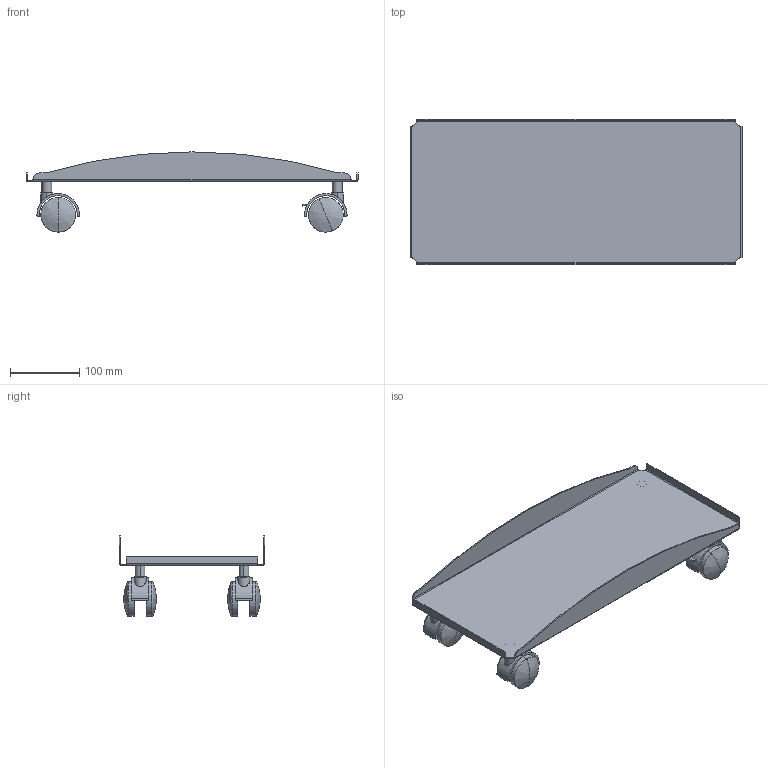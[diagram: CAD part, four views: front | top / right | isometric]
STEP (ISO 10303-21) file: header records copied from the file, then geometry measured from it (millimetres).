
FILE_DESCRIPTION (( 'STEP AP203' ), '1' );
FILE_NAME ('MILADESIGN vozík na PC G9 ST101_217825 a 218960 a 219450 a 219956_3D.STEP', '2021-12-07T08:38:08', ( '' ), ( '' ), 'SwSTEP 2.0', 'SolidWorks 2019', '' );
FILE_SCHEMA (( 'CONFIG_CONTROL_DESIGN' ));
Length unit declared in the file: millimetre
Products named in the file (9): držák bez brzdy na kolo 50; Koleèko 50 mm bez brzdy G9 ST101; MILADESIGN vozík na PC G9 ST101_217825 a 218960 a 219450 a 219956_3D; podstava vozíku G9 ST101; Koleèko 50 mm s brzdou G9 ST101; koleèko 50 mm; držák s brzdou na kolo 50
Assembly tree (17 placements, depth 3):
  MILADESIGN vozík na PC G9 ST101_217825 a 218960 a 219450 a 219956_3D
    podstava vozíku G9 ST101
    Koleèko 50 mm bez brzdy G9 ST101
      držák bez brzdy na kolo 50
      koleèko 50 mm  x2
    Koleèko 50 mm bez brzdy G9 ST101
      držák bez brzdy na kolo 50
      koleèko 50 mm  x2
    Koleèko 50 mm s brzdou G9 ST101
      držák s brzdou na kolo 50
      koleèko 50 mm  x2
    Koleèko 50 mm s brzdou G9 ST101
      držák s brzdou na kolo 50
      koleèko 50 mm  x2
Bounding box: 480 x 210 x 116 mm (x, y, z)
Volume: 436641 mm3; surface area: 334108.4 mm2
Topology: 13 solids, 13 shells, 193 faces, 435 edges, 266 vertices
Faces by surface type: plane 88, cylinder 83, bspline 22
Entity records: 4988 total; most frequent: CARTESIAN_POINT 960, DIRECTION 643, ORIENTED_EDGE 558, EDGE_CURVE 279, AXIS2_PLACEMENT_3D 236, VERTEX_POINT 175, LINE 171, VECTOR 171
